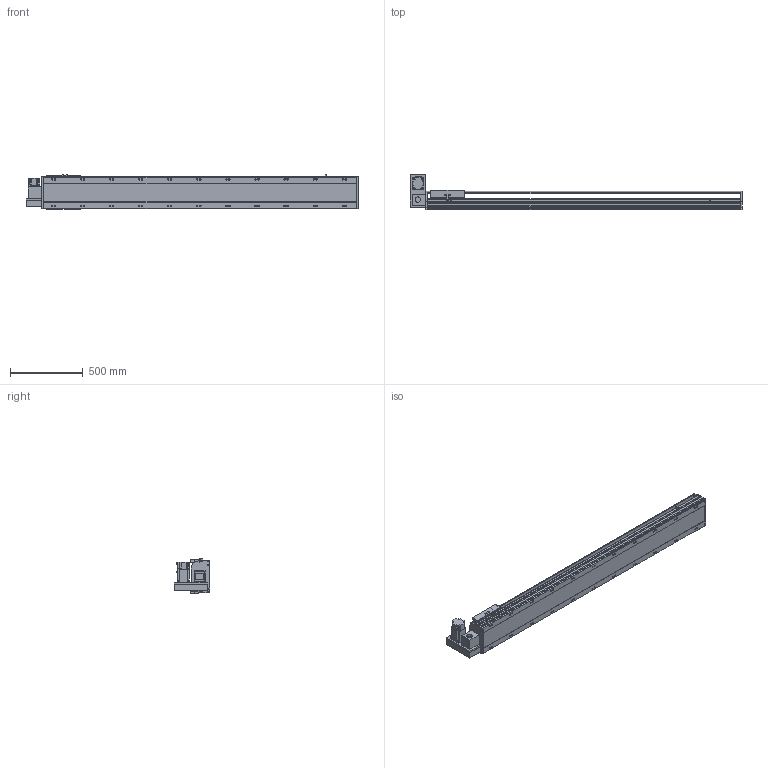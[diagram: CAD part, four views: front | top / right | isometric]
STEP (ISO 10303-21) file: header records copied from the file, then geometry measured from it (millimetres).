
FILE_DESCRIPTION(/* description */ ('STEP AP214'),/* implementation_level */ '2;1');
FILE_NAME(/* name */ 'PBS220-P40-S1800-LU-T75-C1-N(0)',/* time_stamp */ '2022-06-13T02:30:48+02:00',/* author */ ('License CC BY-ND 4.0'),/* organization */ ('CADENAS'),/* preprocessor_version */ 'ST-DEVELOPER v18.102',/* originating_system */ 'PARTsolutions',/* authorisation */ ' ');
FILE_SCHEMA (('AUTOMOTIVE_DESIGN {1 0 10303 214 3 1 1}'));
Length unit declared in the file: millimetre
Products named in the file (7): PBS220-P40-S1800-LU-T75-C1-N(0); PBS220_sensor; PBS220_plant; PBS220_sliser; T75-p1; PBS220T-LU_motors; PBS220-S1800()_body
Assembly tree (8 placements, depth 2):
  PBS220-P40-S1800-LU-T75-C1-N(0)
    PBS220_sensor  x3
    PBS220_plant
    PBS220_sliser
    T75-p1
    PBS220T-LU_motors
    PBS220-S1800()_body
Bounding box: 2284 x 247 x 238.5 mm (x, y, z)
Volume: 32235829.6 mm3; surface area: 3015723.8 mm2
Topology: 8 solids, 8 shells, 950 faces, 2480 edges, 1612 vertices
Faces by surface type: plane 610, cylinder 294, cone 46
Full cylindrical faces by diameter (mm): 2.013 x4, 4.5 x14, 4.917 x4, 6 x7, 6.647 x8, 8 x10, 8.376 x22, 8.5 x22, 10 x6, 14 x22, 38 x2, 40 x1, 70 x1
Entity records: 26565 total; most frequent: CARTESIAN_POINT 4690, DIRECTION 4617, ORIENTED_EDGE 4214, EDGE_CURVE 2107, AXIS2_PLACEMENT_3D 1633, VERTEX_POINT 1464, LINE 1351, VECTOR 1351
